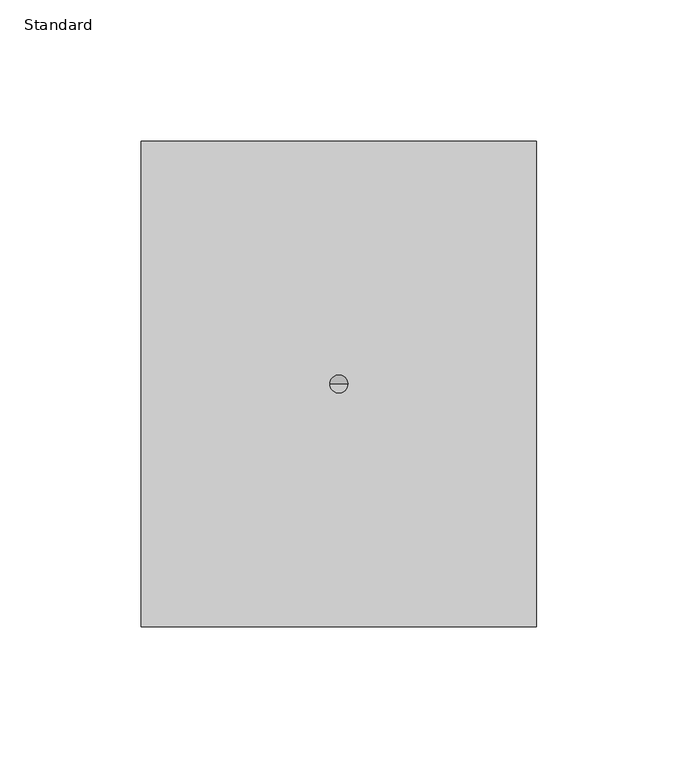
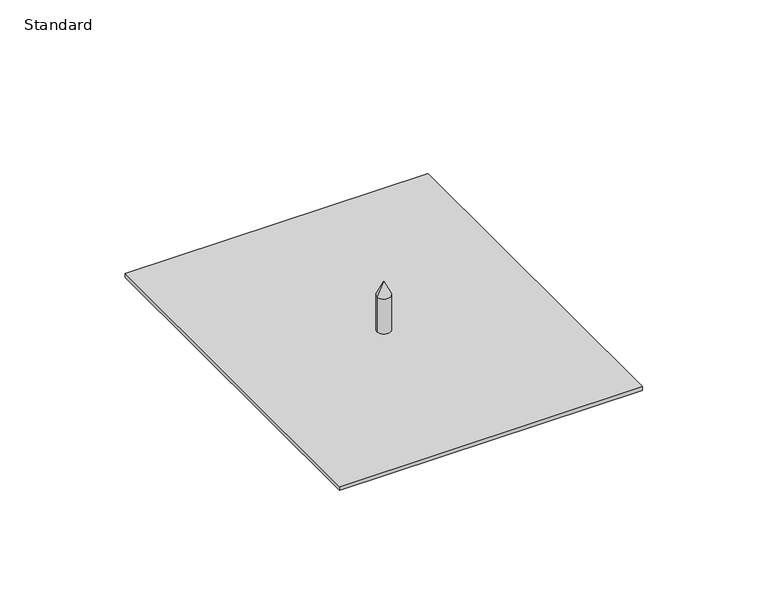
"""IFC4 building model written with IfcOpenShell, lengths in millimetres: proxy geometry, Marker_Cap-Walkercell-Wiremold : Standard."""

from ifc_helpers import new_model, si_unit, frame, origin, origin_with_axes, place, context, project, spatial, polyline, circle_curve, outline, extrude, source, transform, mapped, element, save
from ifc_brep_helpers import plane_surface, cylinder_surface, revolved_surface, advanced_brep


def standard_df24b2be(model_context):
    return source(origin(), model_context, "Body", "SolidModel", [
        extrude(outline(polyline([(69.85, 85.725), (69.85, -85.725), (-69.85, -85.725), (-69.85, 85.725), (69.85, 85.725)])), origin_with_axes(), (0.0, 0.0, 1.0), 1.778),
        advanced_brep(
        [(3.175, 0.0, 1.778), (-3.175, 0.0, 1.778), (-3.175, 0.0, 19.05), (3.175, 0.0, 19.05), (0.0, 0.0, 1.778), (0.0, 0.0, 25.4)],
        [
            (0, 1, circle_curve(frame((0.0, 0.0, 1.778), z_axis=(0.0, 0.0, 1.0), x_axis=(-1.0, 0.0, 0.0)), 3.175)),
            (1, 2),
            (2, 3, circle_curve(frame((0.0, 0.0, 19.05), z_axis=(0.0, 0.0, -1.0), x_axis=(-1.0, 0.0, 0.0)), 3.175)),
            (3, 0),
            (1, 0, circle_curve(frame((0.0, 0.0, 1.778), z_axis=(0.0, 0.0, 1.0), x_axis=(-1.0, 0.0, 0.0)), 3.175)),
            (3, 2, circle_curve(frame((0.0, 0.0, 19.05), z_axis=(0.0, 0.0, -1.0), x_axis=(-1.0, 0.0, 0.0)), 3.175)),
            (4, 1),
            (0, 4),
            (2, 5),
            (5, 3),
        ],
        [
            cylinder_surface(frame((0.0, 0.0, 34.3391533), z_axis=(0.0, 0.0, -1.0), x_axis=(-1.0, 0.0, 0.0)), 3.175),
            plane_surface(frame((0.0, 0.0, 1.778), z_axis=(0.0, 0.0, -1.0), x_axis=(-1.0, 0.0, 0.0))),
            revolved_surface(polyline([(0.0, 0.0, 25.4), (-3.175, 0.0, 19.05)]), (0.0, 0.0, 34.3391533), (0.0, 0.0, -1.0)),
        ],
        [
            (0, [[1, 2, 3, 4]]),
            (0, [[5, -4, 6, -2]]),
            (1, [[7, -1, 8]]),
            (1, [[-8, -5, -7]]),
            (2, [[-3, 9, 10]]),
            (2, [[-6, -10, -9]]),
        ],
    ),
    ])


if __name__ == "__main__":
    model = new_model("IFC4")
    model_context = context("Model", 3, world=origin())
    ifc_project = project(units=[si_unit("LENGTHUNIT", "METRE", prefix="MILLI")], contexts=[model_context])
    site = spatial("IfcSite", under=ifc_project)
    building = spatial("IfcBuilding", under=site)
    placement = place(None, origin())
    standard_shape = standard_df24b2be(model_context)
    element("IfcBuildingElementProxy", 1, Name="Marker_Cap-Walkercell-Wiremold : Standard", ObjectType="Marker_Cap-Walkercell-Wiremold : Standard", at=placement, inside=building, context=model_context, shape_type="MappedRepresentation", body=[
        mapped(standard_shape, transform((0.0, 0.0, 0.0), x_axis=(1.0, 0.0, 0.0), y_axis=(0.0, 1.0, 0.0), z_axis=(0.0, 0.0, 1.0))),
    ])
    save(model, "model.ifc")
